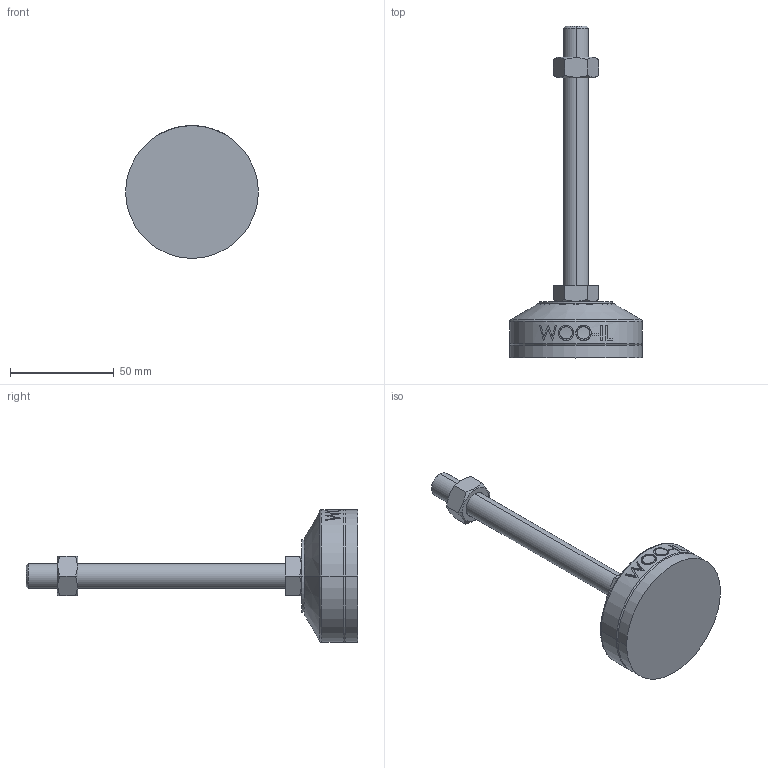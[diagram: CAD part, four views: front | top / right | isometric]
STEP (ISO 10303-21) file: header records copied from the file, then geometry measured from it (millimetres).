
FILE_DESCRIPTION (( 'STEP AP214' ), '1' );
FILE_NAME ('MFZR64-M12-125.step', '2021-03-29T06:54:57', ( '' ), ( '' ), 'SwSTEP 2.0', 'SolidWorks 2019', '' );
FILE_SCHEMA (( 'AUTOMOTIVE_DESIGN' ));
Length unit declared in the file: millimetre
Products named in the file (2): MFZR64-M12-125
Bounding box: 64 x 160 x 64 mm (x, y, z)
Volume: 93750.8 mm3; surface area: 24034.2 mm2
Topology: 4 solids, 4 shells, 103 faces, 235 edges, 150 vertices
Faces by surface type: plane 49, cylinder 18, bspline 16, cone 14, torus 6
Entity records: 4435 total; most frequent: CARTESIAN_POINT 2162, ORIENTED_EDGE 470, DIRECTION 417, EDGE_CURVE 235, AXIS2_PLACEMENT_3D 159, VERTEX_POINT 150, EDGE_LOOP 115, FACE_OUTER_BOUND 103
